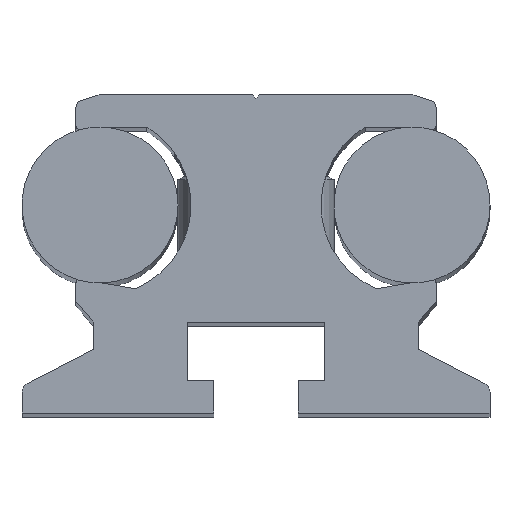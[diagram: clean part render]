
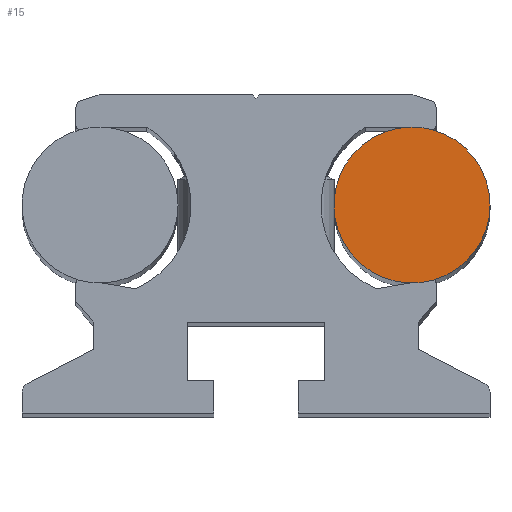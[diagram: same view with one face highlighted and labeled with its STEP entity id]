
A CAD part, top view. The second image highlights one B-rep face of the part: STEP entity #15.
In plain terms, the highlighted planar face has unit normal (0, 0, 1).
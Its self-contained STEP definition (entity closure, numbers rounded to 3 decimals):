
#15 = ADVANCED_FACE ( 'NONE', ( #3454 ), #2610, .T. ) ;
#150 = CIRCLE ( 'NONE', #3118, 6. ) ;
#213 = CIRCLE ( 'NONE', #3129, 6. ) ;
#307 = CIRCLE ( 'NONE', #3159, 6. ) ;
#644 = CIRCLE ( 'NONE', #3191, 6. ) ;
#1282 = CARTESIAN_POINT ( 'NONE',  ( 12., 16., -0.5 ) ) ;
#1287 = DIRECTION ( 'NONE',  ( 0., 0., 1. ) ) ;
#1289 = DIRECTION ( 'NONE',  ( 1., 0., 0. ) ) ;
#1426 = DIRECTION ( 'NONE',  ( 1., 0., 0. ) ) ;
#1427 = DIRECTION ( 'NONE',  ( 0., 0., 1. ) ) ;
#1456 = CARTESIAN_POINT ( 'NONE',  ( 12., 16., -0.5 ) ) ;
#1774 = CARTESIAN_POINT ( 'NONE',  ( 12., 16., -0.5 ) ) ;
#1786 = DIRECTION ( 'NONE',  ( 0., 0., 1. ) ) ;
#1788 = DIRECTION ( 'NONE',  ( 1., 0., 0. ) ) ;
#1964 = CARTESIAN_POINT ( 'NONE',  ( 18., 16., -0.5 ) ) ;
#2107 = CARTESIAN_POINT ( 'NONE',  ( 11.819, 10.003, -0.5 ) ) ;
#2250 = CARTESIAN_POINT ( 'NONE',  ( 13.516, 21.805, -0.5 ) ) ;
#2314 = CARTESIAN_POINT ( 'NONE',  ( 12., 22., -0.5 ) ) ;
#2351 = CARTESIAN_POINT ( 'NONE',  ( 13.719, 10.251, -0.5 ) ) ;
#2606 = DIRECTION ( 'NONE',  ( 1., 0., 0. ) ) ;
#2607 = DIRECTION ( 'NONE',  ( 0., 0., 1. ) ) ;
#2610 = PLANE ( 'NONE',  #3027 ) ;
#2614 = CARTESIAN_POINT ( 'NONE',  ( 12., 16., -0.5 ) ) ;
#2665 = VERTEX_POINT ( 'NONE', #2351 ) ;
#2686 = VERTEX_POINT ( 'NONE', #2314 ) ;
#2714 = VERTEX_POINT ( 'NONE', #2250 ) ;
#2787 = VERTEX_POINT ( 'NONE', #2107 ) ;
#2860 = VERTEX_POINT ( 'NONE', #1964 ) ;
#2943 = EDGE_CURVE ( 'NONE', #2787, #2665, #5077, .T. ) ;
#3027 = AXIS2_PLACEMENT_3D ( 'NONE', #2614, #2607, #2606 ) ;
#3072 = AXIS2_PLACEMENT_3D ( 'NONE', #1456, #1427, #1426 ) ;
#3118 = AXIS2_PLACEMENT_3D ( 'NONE', #4498, #4484, #4482 ) ;
#3129 = AXIS2_PLACEMENT_3D ( 'NONE', #4045, #5580, #5536 ) ;
#3159 = AXIS2_PLACEMENT_3D ( 'NONE', #1282, #1287, #1289 ) ;
#3191 = AXIS2_PLACEMENT_3D ( 'NONE', #1774, #1786, #1788 ) ;
#3454 = FACE_OUTER_BOUND ( 'NONE', #3636, .T. ) ;
#3636 = EDGE_LOOP ( 'NONE', ( #4066, #4064, #4062, #4061, #4059 ) ) ;
#4045 = CARTESIAN_POINT ( 'NONE',  ( 12., 16., -0.5 ) ) ;
#4059 = ORIENTED_EDGE ( 'NONE', *, *, #5205, .F. ) ;
#4061 = ORIENTED_EDGE ( 'NONE', *, *, #5248, .F. ) ;
#4062 = ORIENTED_EDGE ( 'NONE', *, *, #2943, .T. ) ;
#4064 = ORIENTED_EDGE ( 'NONE', *, *, #5445, .T. ) ;
#4066 = ORIENTED_EDGE ( 'NONE', *, *, #5328, .T. ) ;
#4482 = DIRECTION ( 'NONE',  ( 1., 0., 0. ) ) ;
#4484 = DIRECTION ( 'NONE',  ( 0., 0., -1. ) ) ;
#4498 = CARTESIAN_POINT ( 'NONE',  ( 12., 16., -0.5 ) ) ;
#5077 = CIRCLE ( 'NONE', #3072, 6. ) ;
#5205 = EDGE_CURVE ( 'NONE', #2714, #2860, #150, .T. ) ;
#5248 = EDGE_CURVE ( 'NONE', #2860, #2665, #213, .T. ) ;
#5328 = EDGE_CURVE ( 'NONE', #2714, #2686, #307, .T. ) ;
#5445 = EDGE_CURVE ( 'NONE', #2686, #2787, #644, .T. ) ;
#5536 = DIRECTION ( 'NONE',  ( 1., 0., 0. ) ) ;
#5580 = DIRECTION ( 'NONE',  ( 0., 0., -1. ) ) ;
